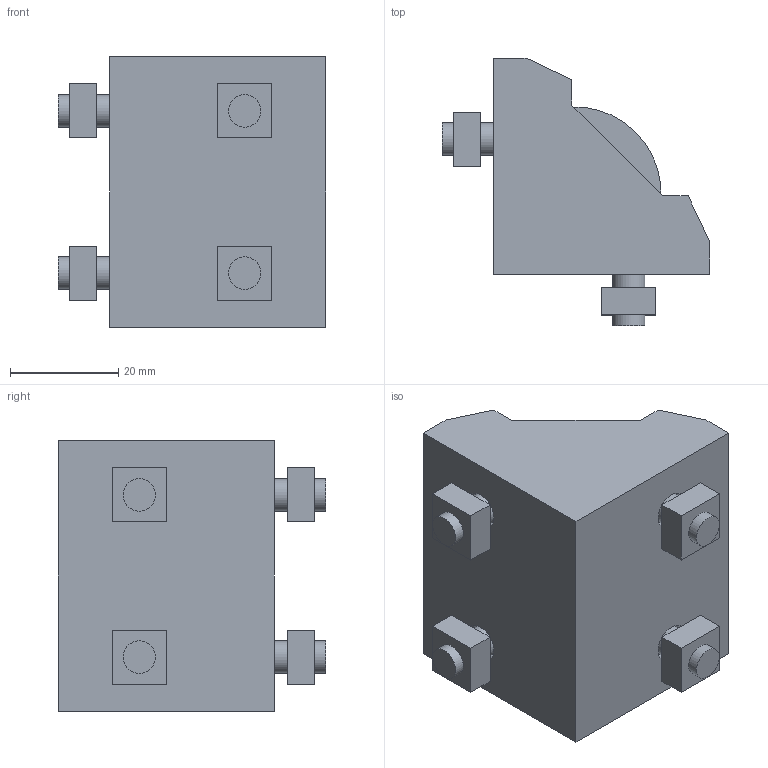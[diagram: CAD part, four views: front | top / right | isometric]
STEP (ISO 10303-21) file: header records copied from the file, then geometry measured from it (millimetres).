
FILE_DESCRIPTION((''),'2;1');
FILE_NAME('C:\Documents and Settings\古川典政\My Documents\Inventor\HP用\MasterData\BRACKET\M6\ABLD-60-6.stp','2008-07-31T09:20:00',(''),(''),'Autodesk Inventor 2008','Autodesk Inventor 2008','');
FILE_SCHEMA(('CONFIG_CONTROL_DESIGN'));
Length unit declared in the file: millimetre
Products named in the file (10): ABLD-60-6; ABLD-60-61; ABLD-60-62; ABLD-60-63; ABLD-60-64; ABLD-60-65; ABLD-60-66; ABLD-60-67; ABLD-60-68; ABLD-60-69
Assembly tree (9 placements, depth 2):
  ABLD-60-6
    ABLD-60-61
    ABLD-60-62
    ABLD-60-63
    ABLD-60-64
    ABLD-60-65
    ABLD-60-66
    ABLD-60-67
    ABLD-60-68
    ABLD-60-69
Bounding box: 49.5 x 49.5 x 50 mm (x, y, z)
Volume: 38517.4 mm3; surface area: 17827.8 mm2
Topology: 9 solids, 9 shells, 113 faces, 257 edges, 174 vertices
Faces by surface type: plane 92, cylinder 13, bspline 8
Full cylindrical faces by diameter (mm): 6 x4, 6.4 x4, 13 x4
Entity records: 3360 total; most frequent: CARTESIAN_POINT 655, DIRECTION 515, ORIENTED_EDGE 450, EDGE_CURVE 225, VECTOR 183, LINE 183, AXIS2_PLACEMENT_3D 166, VERTEX_POINT 162
